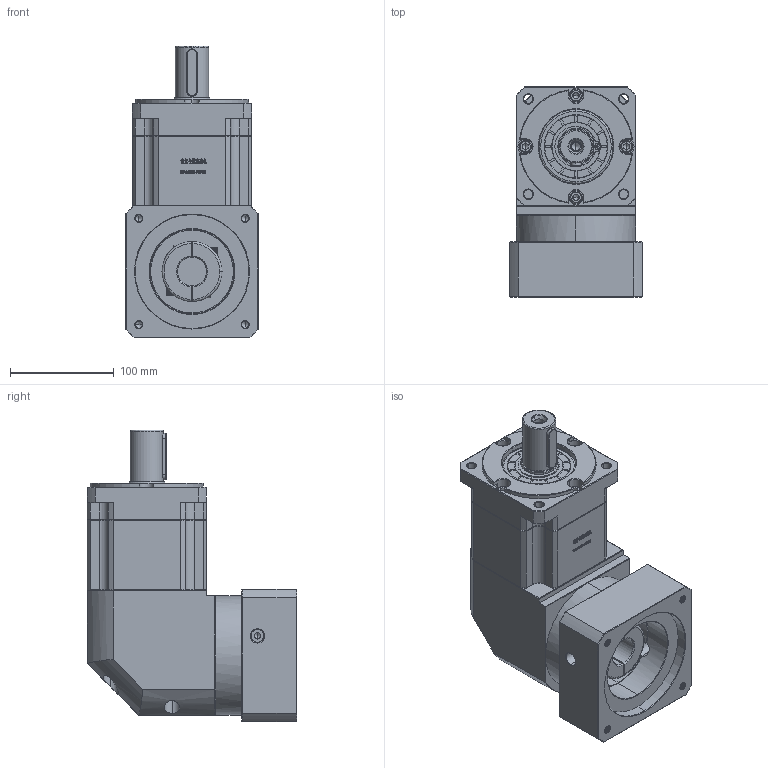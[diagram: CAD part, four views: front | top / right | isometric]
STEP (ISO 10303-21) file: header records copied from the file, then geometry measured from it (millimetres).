
FILE_DESCRIPTION (( 'STEP AP214' ), '1' );
FILE_NAME ('ZBR115A-D32-L2-28-110-145-M8.step', '2023-03-03T05:02:56', ( '' ), ( 'Microsoft' ), 'SwSTEP 2.0', 'SolidWorks 2016', '' );
FILE_SCHEMA (( 'AUTOMOTIVE_DESIGN' ));
Length unit declared in the file: millimetre
Products named in the file (1): ZBR115A-D32-L2-28-110-145-M8
Bounding box: 128 x 202.4 x 281.5 mm (x, y, z)
Volume: 3492557.9 mm3; surface area: 274664.1 mm2
Topology: 6 solids, 6 shells, 2984 faces, 7915 edges, 5074 vertices
Faces by surface type: plane 1560, bspline 607, cylinder 439, cone 370, torus 8
Entity records: 162100 total; most frequent: CARTESIAN_POINT 60108, ORIENTED_EDGE 15770, DIRECTION 11931, EDGE_CURVE 7885, LINE 5311, VECTOR 5311, VERTEX_POINT 5074, AXIS2_PLACEMENT_3D 3310
